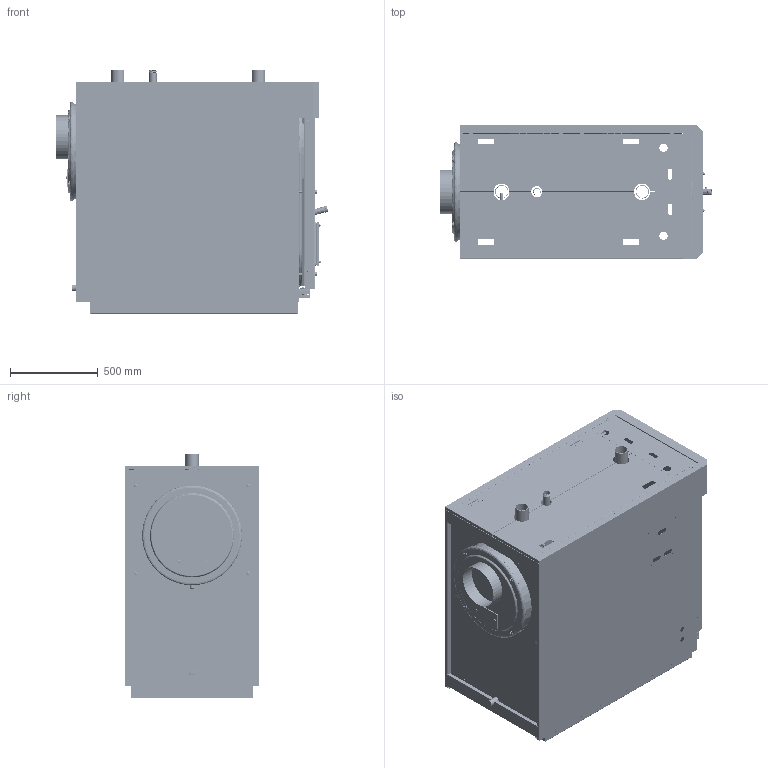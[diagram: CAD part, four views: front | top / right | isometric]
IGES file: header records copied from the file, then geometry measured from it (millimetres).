
Start section: START RECORD GO HERE.
Global section: file name: 20033205 + Pannellatura .igs; native system: DASSAULT SYSTEMES CATIA V5 R20 - www.3ds.com; preprocessor: CATIA Version 5 Release 20 SP 6 ; author: Riello S.p.A.; organization: RIELLO-IT; date: 20170612.113018; units: millimetre
Bounding box: 1550.42 x 760 x 1388 mm (x, y, z)
Surface area: 24895986.5 mm2 (no closed solid volume)
Topology: 0 solids, 0 shells, 6809 faces, 33490 edges, 33429 vertices
Faces by surface type: plane 4028, revolution 2572, bspline 209
